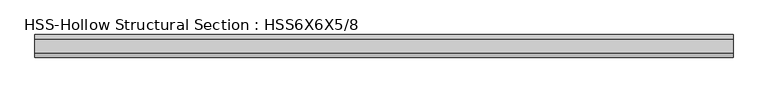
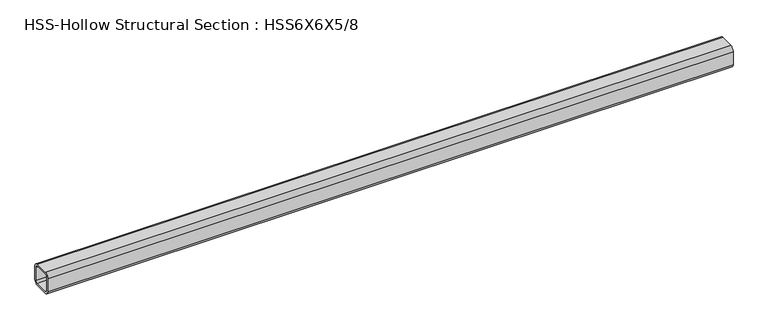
"""IFC4 building model written with IfcOpenShell, lengths in millimetres: beam geometry, HSS-Hollow Structural Section : HSS6X6X5/8."""

from ifc_helpers import new_model, si_unit, point, frame, frame_2d, origin, place, context, project, spatial, polyline, circle_curve, trimmed, segment, composite_curve, outline, extrude, source, transform, mapped, element, save


def hss_hollow_structural_section_hss6x6x5_8_804dfea8(model_context):
    return source(origin(), model_context, "Body", "SweptSolid", [
        extrude(outline(composite_curve([segment(polyline([(76.2, 46.6852), (76.2, -46.6852)]), True, "CONTINUOUS"), segment(trimmed(circle_curve(frame_2d((46.6852, -46.6852)), 29.5148), [point((76.2, -46.6852))], [point((46.6852, -76.2))], False, "CARTESIAN"), True, "CONTINUOUS"), segment(polyline([(46.6852, -76.2), (-46.6852, -76.2)]), True, "CONTINUOUS"), segment(trimmed(circle_curve(frame_2d((-46.6852, -46.6852)), 29.5148), [point((-46.6852, -76.2))], [point((-76.2, -46.6852))], False, "CARTESIAN"), True, "CONTINUOUS"), segment(polyline([(-76.2, -46.6852), (-76.2, 46.6852)]), True, "CONTINUOUS"), segment(trimmed(circle_curve(frame_2d((-46.6852, 46.6852)), 29.5148), [point((-76.2, 46.6852))], [point((-46.6852, 76.2))], False, "CARTESIAN"), True, "CONTINUOUS"), segment(polyline([(-46.6852, 76.2), (46.6852, 76.2)]), True, "CONTINUOUS"), segment(trimmed(circle_curve(frame_2d((46.6852, 46.6852)), 29.5148), [point((46.6852, 76.2))], [point((76.2, 46.6852))], False, "CARTESIAN"), True, "CONTINUOUS")], self_intersect=False), holes=[composite_curve([segment(trimmed(circle_curve(frame_2d((-46.6852, 46.6852)), 14.7574), [point((-46.6852, 61.4426))], [point((-61.4426, 46.6852))], True, "CARTESIAN"), True, "CONTINUOUS"), segment(polyline([(-61.4426, 46.6852), (-61.4426, -46.6852)]), True, "CONTINUOUS"), segment(trimmed(circle_curve(frame_2d((-46.6852, -46.6852)), 14.7574), [point((-61.4426, -46.6852))], [point((-46.6852, -61.4426))], True, "CARTESIAN"), True, "CONTINUOUS"), segment(polyline([(-46.6852, -61.4426), (46.6852, -61.4426)]), True, "CONTINUOUS"), segment(trimmed(circle_curve(frame_2d((46.6852, -46.6852)), 14.7574), [point((46.6852, -61.4426))], [point((61.4426, -46.6852))], True, "CARTESIAN"), True, "CONTINUOUS"), segment(polyline([(61.4426, -46.6852), (61.4426, 46.6852)]), True, "CONTINUOUS"), segment(trimmed(circle_curve(frame_2d((46.6852, 46.6852)), 14.7574), [point((61.4426, 46.6852))], [point((46.6852, 61.4426))], True, "CARTESIAN"), True, "CONTINUOUS"), segment(polyline([(46.6852, 61.4426), (-46.6852, 61.4426)]), True, "CONTINUOUS")], self_intersect=False)]), frame((-2349.5, 0.0, 0.0), z_axis=(1.0, 0.0, 0.0), x_axis=(0.0, 1.0, 0.0)), (0.0, 0.0, 1.0), 4699.0),
    ])


if __name__ == "__main__":
    model = new_model("IFC4")
    model_context = context("Model", 3, world=origin())
    ifc_project = project(units=[si_unit("LENGTHUNIT", "METRE", prefix="MILLI")], contexts=[model_context])
    site = spatial("IfcSite", under=ifc_project)
    building = spatial("IfcBuilding", under=site)
    placement = place(None, origin())
    hss_hollow_structural_section_hss6x6x5_8_shape = hss_hollow_structural_section_hss6x6x5_8_804dfea8(model_context)
    element("IfcBeam", 1, ObjectType="HSS-Hollow Structural Section : HSS6X6X5/8", at=placement, inside=building, context=model_context, shape_type="MappedRepresentation", body=[
        mapped(hss_hollow_structural_section_hss6x6x5_8_shape, transform((0.0, 0.0, 0.0), x_axis=(1.0, 0.0, 0.0), y_axis=(0.0, 1.0, 0.0), z_axis=(0.0, 0.0, 1.0))),
    ])
    save(model, "model.ifc")
